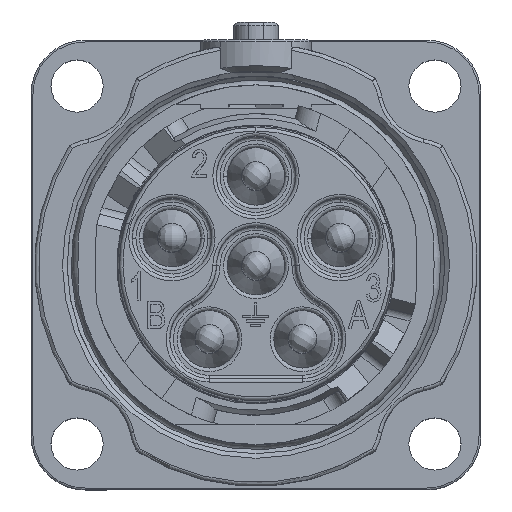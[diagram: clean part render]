
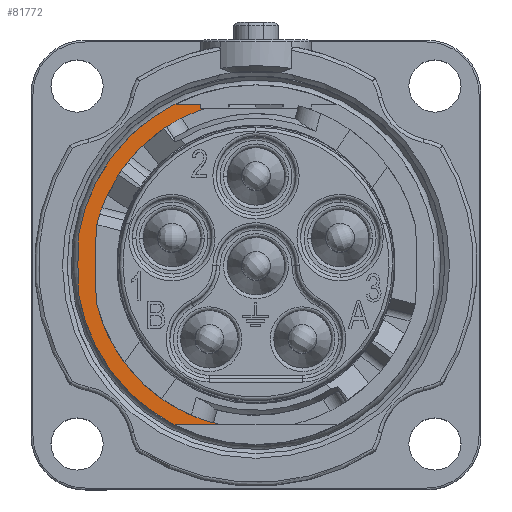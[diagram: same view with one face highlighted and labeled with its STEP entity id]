
A CAD part, top view. The second image highlights one B-rep face of the part: STEP entity #81772.
In plain terms, the highlighted planar face has unit normal (0, 0, 1).
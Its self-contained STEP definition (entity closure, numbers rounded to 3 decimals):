
#753 = DIRECTION ( 'NONE',  ( -1., 0., 0. ) ) ;
#922 = EDGE_CURVE ( 'NONE', #1822, #46007, #38586, .T. ) ;
#1413 = CARTESIAN_POINT ( 'NONE',  ( -10.075, -3.13, -14.651 ) ) ;
#1448 = DIRECTION ( 'NONE',  ( 0., 0., -1. ) ) ;
#1822 = VERTEX_POINT ( 'NONE', #55343 ) ;
#2811 = CARTESIAN_POINT ( 'NONE',  ( -4.299, 7.686, -14.651 ) ) ;
#3032 = DIRECTION ( 'NONE',  ( -1., 0., 0. ) ) ;
#4465 = CIRCLE ( 'NONE', #96487, 10. ) ;
#5666 = CARTESIAN_POINT ( 'NONE',  ( -11.099, -1.014, -14.651 ) ) ;
#5931 = CARTESIAN_POINT ( 'NONE',  ( -4.299, 7.686, -14.651 ) ) ;
#6272 = EDGE_CURVE ( 'NONE', #57389, #95460, #80535, .T. ) ;
#7782 = CARTESIAN_POINT ( 'NONE',  ( -1.199, -1.014, -14.651 ) ) ;
#8866 = DIRECTION ( 'NONE',  ( -0.035, 0.999, 0. ) ) ;
#10748 = LINE ( 'NONE', #41060, #49045 ) ;
#11290 = VERTEX_POINT ( 'NONE', #13695 ) ;
#13695 = CARTESIAN_POINT ( 'NONE',  ( -10.149, -1.014, -14.651 ) ) ;
#15238 = CARTESIAN_POINT ( 'NONE',  ( -1.199, -1.014, -14.651 ) ) ;
#19018 = CARTESIAN_POINT ( 'NONE',  ( -4.299, 7.886, -14.651 ) ) ;
#20251 = CIRCLE ( 'NONE', #37735, 10. ) ;
#20698 = EDGE_CURVE ( 'NONE', #11290, #87369, #10748, .T. ) ;
#22390 = CARTESIAN_POINT ( 'NONE',  ( -1.199, -1.014, -14.651 ) ) ;
#25944 = CARTESIAN_POINT ( 'NONE',  ( -3.951, 7.686, -14.651 ) ) ;
#27177 = ORIENTED_EDGE ( 'NONE', *, *, #38620, .T. ) ;
#27727 = ORIENTED_EDGE ( 'NONE', *, *, #68174, .F. ) ;
#28405 = EDGE_CURVE ( 'NONE', #46007, #55330, #36609, .T. ) ;
#28413 = CARTESIAN_POINT ( 'NONE',  ( -5.759, 7.886, -14.651 ) ) ;
#29706 = VECTOR ( 'NONE', #96983, 1000. ) ;
#30237 = VERTEX_POINT ( 'NONE', #28413 ) ;
#30360 = CARTESIAN_POINT ( 'NONE',  ( -3.285, 7.886, -14.651 ) ) ;
#30928 = VERTEX_POINT ( 'NONE', #45902 ) ;
#31025 = ORIENTED_EDGE ( 'NONE', *, *, #6272, .F. ) ;
#31074 = LINE ( 'NONE', #68834, #55239 ) ;
#31273 = CARTESIAN_POINT ( 'NONE',  ( -3.285, -9.914, -14.651 ) ) ;
#33421 = CIRCLE ( 'NONE', #90519, 9.125 ) ;
#33592 = DIRECTION ( 'NONE',  ( 0.035, 0.999, 0. ) ) ;
#34962 = VERTEX_POINT ( 'NONE', #25944 ) ;
#36609 = LINE ( 'NONE', #67402, #64860 ) ;
#37409 = ORIENTED_EDGE ( 'NONE', *, *, #67239, .F. ) ;
#37598 = DIRECTION ( 'NONE',  ( 0., 0., -1. ) ) ;
#37735 = AXIS2_PLACEMENT_3D ( 'NONE', #60789, #54322, #37961 ) ;
#37753 = DIRECTION ( 'NONE',  ( 0., 0., -1. ) ) ;
#37961 = DIRECTION ( 'NONE',  ( 1., 0., 0. ) ) ;
#38093 = EDGE_LOOP ( 'NONE', ( #98285, #82210, #96498, #27177, #65601, #37409, #89694, #50176, #27727, #31025, #67575, #40677 ) ) ;
#38563 = DIRECTION ( 'NONE',  ( 0., 0., -1. ) ) ;
#38586 = LINE ( 'NONE', #92703, #97796 ) ;
#38620 = EDGE_CURVE ( 'NONE', #72072, #62486, #95865, .T. ) ;
#40677 = ORIENTED_EDGE ( 'NONE', *, *, #97262, .T. ) ;
#41060 = CARTESIAN_POINT ( 'NONE',  ( -10.09, 0.675, -14.651 ) ) ;
#42014 = EDGE_CURVE ( 'NONE', #87369, #34962, #33421, .T. ) ;
#45703 = EDGE_CURVE ( 'NONE', #34962, #72072, #31074, .T. ) ;
#45902 = CARTESIAN_POINT ( 'NONE',  ( -10.075, -3.13, -14.651 ) ) ;
#46007 = VERTEX_POINT ( 'NONE', #5666 ) ;
#49045 = VECTOR ( 'NONE', #33592, 1000. ) ;
#50176 = ORIENTED_EDGE ( 'NONE', *, *, #922, .F. ) ;
#52247 = LINE ( 'NONE', #30360, #29706 ) ;
#54322 = DIRECTION ( 'NONE',  ( 0., 0., -1. ) ) ;
#55239 = VECTOR ( 'NONE', #753, 1000. ) ;
#55330 = VERTEX_POINT ( 'NONE', #87892 ) ;
#55343 = CARTESIAN_POINT ( 'NONE',  ( -11.071, -2.608, -14.651 ) ) ;
#57389 = VERTEX_POINT ( 'NONE', #85606 ) ;
#57756 = CARTESIAN_POINT ( 'NONE',  ( -5.759, -9.914, -14.651 ) ) ;
#58097 = DIRECTION ( 'NONE',  ( 0., 1., 0. ) ) ;
#60789 = CARTESIAN_POINT ( 'NONE',  ( -1.199, -1.014, -14.651 ) ) ;
#61549 = LINE ( 'NONE', #1413, #88242 ) ;
#62486 = VERTEX_POINT ( 'NONE', #19018 ) ;
#62543 = DIRECTION ( 'NONE',  ( 0., -1., 0. ) ) ;
#64860 = VECTOR ( 'NONE', #82797, 1000. ) ;
#65601 = ORIENTED_EDGE ( 'NONE', *, *, #90490, .F. ) ;
#67239 = EDGE_CURVE ( 'NONE', #55330, #30237, #20251, .T. ) ;
#67402 = CARTESIAN_POINT ( 'NONE',  ( -10.896, 10.617, -14.651 ) ) ;
#67575 = ORIENTED_EDGE ( 'NONE', *, *, #87616, .T. ) ;
#68174 = EDGE_CURVE ( 'NONE', #95460, #1822, #4465, .T. ) ;
#68834 = CARTESIAN_POINT ( 'NONE',  ( -4.299, 7.686, -14.651 ) ) ;
#69529 = PLANE ( 'NONE',  #79802 ) ;
#72072 = VERTEX_POINT ( 'NONE', #2811 ) ;
#75240 = VECTOR ( 'NONE', #3032, 1000. ) ;
#75523 = FACE_OUTER_BOUND ( 'NONE', #38093, .T. ) ;
#75866 = DIRECTION ( 'NONE',  ( 1., 0., 0. ) ) ;
#77339 = DIRECTION ( 'NONE',  ( -0.017, 1., 0. ) ) ;
#79802 = AXIS2_PLACEMENT_3D ( 'NONE', #31273, #37753, #62543 ) ;
#80261 = CIRCLE ( 'NONE', #84961, 9.125 ) ;
#80535 = LINE ( 'NONE', #93959, #75240 ) ;
#81772 = ADVANCED_FACE ( 'NONE', ( #75523 ), #69529, .F. ) ;
#82210 = ORIENTED_EDGE ( 'NONE', *, *, #42014, .T. ) ;
#82797 = DIRECTION ( 'NONE',  ( 0.017, 1., 0. ) ) ;
#83786 = DIRECTION ( 'NONE',  ( 0., -1., 0. ) ) ;
#83948 = DIRECTION ( 'NONE',  ( 0., -1., 0. ) ) ;
#84605 = VECTOR ( 'NONE', #58097, 1000. ) ;
#84961 = AXIS2_PLACEMENT_3D ( 'NONE', #22390, #1448, #83948 ) ;
#85606 = CARTESIAN_POINT ( 'NONE',  ( -3.213, -9.914, -14.651 ) ) ;
#87369 = VERTEX_POINT ( 'NONE', #90437 ) ;
#87616 = EDGE_CURVE ( 'NONE', #57389, #30928, #80261, .T. ) ;
#87892 = CARTESIAN_POINT ( 'NONE',  ( -11.071, 0.579, -14.651 ) ) ;
#88242 = VECTOR ( 'NONE', #8866, 1000. ) ;
#89694 = ORIENTED_EDGE ( 'NONE', *, *, #28405, .F. ) ;
#90437 = CARTESIAN_POINT ( 'NONE',  ( -10.075, 1.103, -14.651 ) ) ;
#90490 = EDGE_CURVE ( 'NONE', #30237, #62486, #52247, .T. ) ;
#90519 = AXIS2_PLACEMENT_3D ( 'NONE', #15238, #38563, #83786 ) ;
#92703 = CARTESIAN_POINT ( 'NONE',  ( -10.896, -12.645, -14.651 ) ) ;
#93959 = CARTESIAN_POINT ( 'NONE',  ( -3.285, -9.914, -14.651 ) ) ;
#95460 = VERTEX_POINT ( 'NONE', #57756 ) ;
#95865 = LINE ( 'NONE', #5931, #84605 ) ;
#96487 = AXIS2_PLACEMENT_3D ( 'NONE', #7782, #37598, #75866 ) ;
#96498 = ORIENTED_EDGE ( 'NONE', *, *, #45703, .T. ) ;
#96983 = DIRECTION ( 'NONE',  ( 1., 0., 0. ) ) ;
#97262 = EDGE_CURVE ( 'NONE', #30928, #11290, #61549, .T. ) ;
#97796 = VECTOR ( 'NONE', #77339, 1000. ) ;
#98285 = ORIENTED_EDGE ( 'NONE', *, *, #20698, .T. ) ;
